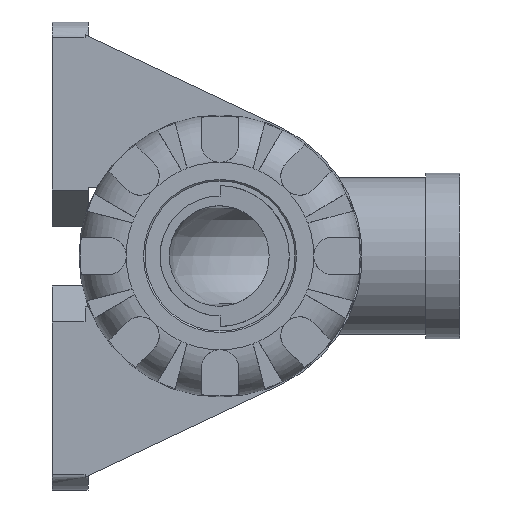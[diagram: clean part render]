
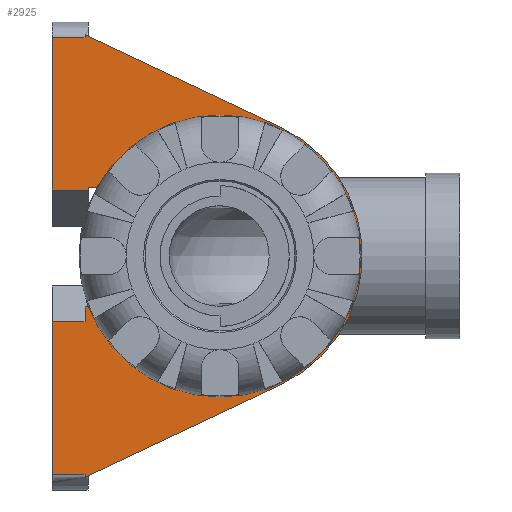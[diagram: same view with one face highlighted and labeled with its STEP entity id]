
A CAD part, left-side view. The second image highlights one B-rep face of the part: STEP entity #2925.
In plain terms, the highlighted planar face has unit normal (-1, 0, 0).
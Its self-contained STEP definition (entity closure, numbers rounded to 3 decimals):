
#158=CIRCLE('',#3085,22.035);
#159=CIRCLE('',#3087,22.035);
#161=CIRCLE('',#3091,23.738);
#172=CIRCLE('',#3112,20.988);
#174=CIRCLE('',#3123,21.276);
#175=CIRCLE('',#3124,21.276);
#345=FACE_OUTER_BOUND('',#510,.T.);
#510=EDGE_LOOP('',(#1947,#1948,#1949,#1950,#1951,#1952,#1953,#1954,#1955,
#1956,#1957,#1958,#1959,#1960,#1961,#1962,#1963,#1964,#1965,#1966,#1967,
#1968));
#670=LINE('',#4171,#877);
#678=LINE('',#4203,#885);
#688=LINE('',#4235,#895);
#699=LINE('',#4266,#906);
#705=LINE('',#4287,#912);
#708=LINE('',#4300,#915);
#713=LINE('',#4309,#920);
#715=LINE('',#4313,#922);
#729=LINE('',#4375,#936);
#734=LINE('',#4385,#941);
#742=LINE('',#4410,#949);
#747=LINE('',#4420,#954);
#748=LINE('',#4421,#955);
#749=LINE('',#4423,#956);
#750=LINE('',#4426,#957);
#751=LINE('',#4429,#958);
#877=VECTOR('',#3366,5.5);
#885=VECTOR('',#3388,5.5);
#895=VECTOR('',#3412,25.353);
#906=VECTOR('',#3437,36.068);
#912=VECTOR('',#3457,0.5);
#915=VECTOR('',#3470,36.068);
#920=VECTOR('',#3477,3.204);
#922=VECTOR('',#3481,0.5);
#936=VECTOR('',#3529,2.5);
#941=VECTOR('',#3536,5.5);
#949=VECTOR('',#3554,6.);
#954=VECTOR('',#3565,0.5);
#955=VECTOR('',#3566,25.353);
#956=VECTOR('',#3567,0.97);
#957=VECTOR('',#3570,1.516);
#958=VECTOR('',#3573,2.996);
#1080=VERTEX_POINT('',#4161);
#1084=VERTEX_POINT('',#4169);
#1093=VERTEX_POINT('',#4199);
#1095=VERTEX_POINT('',#4202);
#1116=VERTEX_POINT('',#4263);
#1117=VERTEX_POINT('',#4265);
#1119=VERTEX_POINT('',#4270);
#1121=VERTEX_POINT('',#4274);
#1122=VERTEX_POINT('',#4278);
#1124=VERTEX_POINT('',#4281);
#1126=VERTEX_POINT('',#4289);
#1130=VERTEX_POINT('',#4298);
#1133=VERTEX_POINT('',#4306);
#1134=VERTEX_POINT('',#4312);
#1158=VERTEX_POINT('',#4365);
#1159=VERTEX_POINT('',#4374);
#1161=VERTEX_POINT('',#4379);
#1163=VERTEX_POINT('',#4383);
#1169=VERTEX_POINT('',#4408);
#1172=VERTEX_POINT('',#4422);
#1173=VERTEX_POINT('',#4425);
#1174=VERTEX_POINT('',#4427);
#1365=EDGE_CURVE('',#1084,#1080,#670,.T.);
#1377=EDGE_CURVE('',#1095,#1093,#678,.T.);
#1391=EDGE_CURVE('',#1095,#1084,#688,.T.);
#1407=EDGE_CURVE('',#1117,#1116,#699,.T.);
#1412=EDGE_CURVE('',#1119,#1121,#158,.T.);
#1414=EDGE_CURVE('',#1124,#1122,#159,.T.);
#1417=EDGE_CURVE('',#1093,#1117,#705,.T.);
#1418=EDGE_CURVE('',#1116,#1126,#161,.T.);
#1423=EDGE_CURVE('',#1126,#1130,#708,.T.);
#1428=EDGE_CURVE('',#1133,#1124,#713,.T.);
#1430=EDGE_CURVE('',#1133,#1134,#715,.T.);
#1457=EDGE_CURVE('',#1158,#1119,#172,.T.);
#1459=EDGE_CURVE('',#1159,#1080,#729,.T.);
#1464=EDGE_CURVE('',#1163,#1161,#734,.T.);
#1474=EDGE_CURVE('',#1169,#1134,#742,.T.);
#1479=EDGE_CURVE('',#1130,#1161,#747,.T.);
#1480=EDGE_CURVE('',#1163,#1169,#748,.T.);
#1481=EDGE_CURVE('',#1122,#1172,#749,.T.);
#1482=EDGE_CURVE('',#1158,#1172,#174,.T.);
#1483=EDGE_CURVE('',#1121,#1173,#750,.T.);
#1484=EDGE_CURVE('',#1174,#1173,#175,.T.);
#1485=EDGE_CURVE('',#1174,#1159,#751,.T.);
#1947=ORIENTED_EDGE('',*,*,#1417,.T.);
#1948=ORIENTED_EDGE('',*,*,#1407,.T.);
#1949=ORIENTED_EDGE('',*,*,#1418,.T.);
#1950=ORIENTED_EDGE('',*,*,#1423,.T.);
#1951=ORIENTED_EDGE('',*,*,#1479,.T.);
#1952=ORIENTED_EDGE('',*,*,#1464,.F.);
#1953=ORIENTED_EDGE('',*,*,#1480,.T.);
#1954=ORIENTED_EDGE('',*,*,#1474,.T.);
#1955=ORIENTED_EDGE('',*,*,#1430,.F.);
#1956=ORIENTED_EDGE('',*,*,#1428,.T.);
#1957=ORIENTED_EDGE('',*,*,#1414,.T.);
#1958=ORIENTED_EDGE('',*,*,#1481,.T.);
#1959=ORIENTED_EDGE('',*,*,#1482,.F.);
#1960=ORIENTED_EDGE('',*,*,#1457,.T.);
#1961=ORIENTED_EDGE('',*,*,#1412,.T.);
#1962=ORIENTED_EDGE('',*,*,#1483,.T.);
#1963=ORIENTED_EDGE('',*,*,#1484,.F.);
#1964=ORIENTED_EDGE('',*,*,#1485,.T.);
#1965=ORIENTED_EDGE('',*,*,#1459,.T.);
#1966=ORIENTED_EDGE('',*,*,#1365,.F.);
#1967=ORIENTED_EDGE('',*,*,#1391,.F.);
#1968=ORIENTED_EDGE('',*,*,#1377,.T.);
#2651=PLANE('',#3122);
#2925=ADVANCED_FACE('',(#345),#2651,.T.);
#3085=AXIS2_PLACEMENT_3D('',#4276,#3445,#3446);
#3087=AXIS2_PLACEMENT_3D('',#4282,#3450,#3451);
#3091=AXIS2_PLACEMENT_3D('',#4290,#3460,#3461);
#3112=AXIS2_PLACEMENT_3D('',#4366,#3525,#3526);
#3122=AXIS2_PLACEMENT_3D('',#4419,#3563,#3564);
#3123=AXIS2_PLACEMENT_3D('',#4424,#3568,#3569);
#3124=AXIS2_PLACEMENT_3D('',#4428,#3571,#3572);
#3366=DIRECTION('',(0.,-1.,0.));
#3388=DIRECTION('',(0.,-1.,0.));
#3412=DIRECTION('',(0.,0.,1.));
#3437=DIRECTION('',(0.,-0.905,0.426));
#3445=DIRECTION('center_axis',(1.,0.,0.));
#3446=DIRECTION('ref_axis',(0.,-0.853,0.522));
#3450=DIRECTION('center_axis',(1.,0.,0.));
#3451=DIRECTION('ref_axis',(0.,-0.853,0.522));
#3457=DIRECTION('',(0.,0.,-1.));
#3460=DIRECTION('center_axis',(-1.,0.,0.));
#3461=DIRECTION('ref_axis',(0.,-0.426,-0.905));
#3470=DIRECTION('',(0.,0.905,0.426));
#3477=DIRECTION('',(0.,-1.,0.));
#3481=DIRECTION('',(0.,0.,-1.));
#3525=DIRECTION('center_axis',(-1.,0.,0.));
#3526=DIRECTION('ref_axis',(0.,-0.437,-0.899));
#3529=DIRECTION('',(0.,0.,-1.));
#3536=DIRECTION('',(0.,-1.,0.));
#3554=DIRECTION('',(0.,-1.,0.));
#3563=DIRECTION('center_axis',(-1.,0.,0.));
#3564=DIRECTION('ref_axis',(0.,0.,-1.));
#3565=DIRECTION('',(0.,0.,-1.));
#3566=DIRECTION('',(0.,0.,-1.));
#3567=DIRECTION('',(0.,-1.,0.));
#3568=DIRECTION('center_axis',(-1.,0.,0.));
#3569=DIRECTION('ref_axis',(0.,0.,1.));
#3570=DIRECTION('',(0.,-0.899,0.437));
#3571=DIRECTION('center_axis',(-1.,0.,0.));
#3572=DIRECTION('ref_axis',(0.,0.,1.));
#3573=DIRECTION('',(0.,1.,0.));
#4161=CARTESIAN_POINT('',(-41.,22.5,-11.));
#4169=CARTESIAN_POINT('',(-41.,28.,-11.));
#4171=CARTESIAN_POINT('',(-41.,28.,-11.));
#4199=CARTESIAN_POINT('',(-41.,22.5,-36.353));
#4202=CARTESIAN_POINT('',(-41.,28.,-36.353));
#4203=CARTESIAN_POINT('',(-41.,28.,-36.353));
#4235=CARTESIAN_POINT('',(-41.,28.,-36.277));
#4263=CARTESIAN_POINT('',(-41.,-10.123,-21.471));
#4265=CARTESIAN_POINT('',(-41.,22.5,-36.853));
#4266=CARTESIAN_POINT('',(-41.,22.5,-36.853));
#4270=CARTESIAN_POINT('',(-41.,-19.502,10.257));
#4274=CARTESIAN_POINT('',(-41.,2.23,-21.922));
#4276=CARTESIAN_POINT('Origin',(-41.,0.,0.));
#4278=CARTESIAN_POINT('',(-41.,17.415,13.5));
#4281=CARTESIAN_POINT('',(-41.,18.796,11.5));
#4282=CARTESIAN_POINT('Origin',(-41.,0.,0.));
#4287=CARTESIAN_POINT('',(-41.,22.5,-11.5));
#4289=CARTESIAN_POINT('',(-41.,-10.123,21.471));
#4290=CARTESIAN_POINT('Origin',(-41.,0.,0.));
#4298=CARTESIAN_POINT('',(-41.,22.5,36.853));
#4300=CARTESIAN_POINT('',(-41.,-10.123,21.471));
#4306=CARTESIAN_POINT('',(-41.,22.,11.5));
#4309=CARTESIAN_POINT('',(-41.,22.5,11.5));
#4312=CARTESIAN_POINT('',(-41.,22.,11.));
#4313=CARTESIAN_POINT('',(-41.,22.,36.277));
#4365=CARTESIAN_POINT('',(-41.,-20.954,3.686));
#4366=CARTESIAN_POINT('Origin',(-41.,0.,2.5));
#4374=CARTESIAN_POINT('',(-41.,22.5,-8.5));
#4375=CARTESIAN_POINT('',(-41.,22.5,-8.5));
#4379=CARTESIAN_POINT('',(-41.,22.5,36.353));
#4383=CARTESIAN_POINT('',(-41.,28.,36.353));
#4385=CARTESIAN_POINT('',(-41.,28.,36.353));
#4408=CARTESIAN_POINT('',(-41.,28.,11.));
#4410=CARTESIAN_POINT('',(-41.,28.,11.));
#4419=CARTESIAN_POINT('Origin',(-41.,28.,36.277));
#4420=CARTESIAN_POINT('',(-41.,22.5,36.777));
#4421=CARTESIAN_POINT('',(-41.,28.,36.353));
#4422=CARTESIAN_POINT('',(-41.,16.445,13.5));
#4423=CARTESIAN_POINT('',(-41.,22.5,13.5));
#4424=CARTESIAN_POINT('Origin',(-41.,0.,
0.));
#4425=CARTESIAN_POINT('',(-41.,0.866,-21.259));
#4426=CARTESIAN_POINT('',(-41.,22.5,-31.777));
#4427=CARTESIAN_POINT('',(-41.,19.504,-8.5));
#4428=CARTESIAN_POINT('Origin',(-41.,0.,
0.));
#4429=CARTESIAN_POINT('',(-41.,14.874,-8.5));
